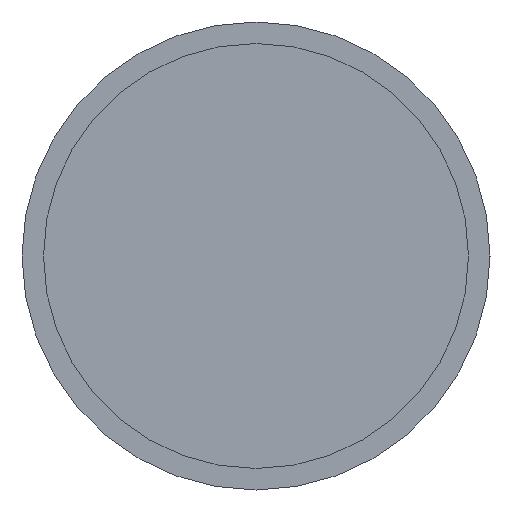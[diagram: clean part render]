
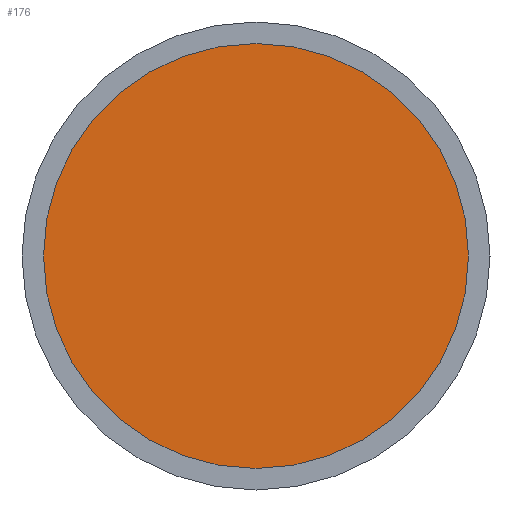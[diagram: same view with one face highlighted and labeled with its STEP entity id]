
A CAD part, left-side view. The second image highlights one B-rep face of the part: STEP entity #176.
In plain terms, the highlighted planar face has unit normal (-1, 0, 0).
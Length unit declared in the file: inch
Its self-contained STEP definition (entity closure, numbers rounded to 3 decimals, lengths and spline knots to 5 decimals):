
#61=FACE_OUTER_BOUND('',#69,.T.);
#69=EDGE_LOOP('',(#125,#126));
#78=CIRCLE('',#205,1.0785);
#79=CIRCLE('',#206,1.0785);
#92=VERTEX_POINT('',#318);
#93=VERTEX_POINT('',#319);
#106=EDGE_CURVE('',#92,#93,#78,.T.);
#107=EDGE_CURVE('',#93,#92,#79,.T.);
#125=ORIENTED_EDGE('',*,*,#106,.F.);
#126=ORIENTED_EDGE('',*,*,#107,.F.);
#163=PLANE('',#204);
#176=ADVANCED_FACE('',(#61),#163,.T.);
#204=AXIS2_PLACEMENT_3D('',#317,#241,#242);
#205=AXIS2_PLACEMENT_3D('',#320,#243,#244);
#206=AXIS2_PLACEMENT_3D('',#321,#245,#246);
#241=DIRECTION('center_axis',(-1.,0.,0.));
#242=DIRECTION('ref_axis',(0.,0.,1.));
#243=DIRECTION('center_axis',(1.,0.,0.));
#244=DIRECTION('ref_axis',(0.,1.,0.));
#245=DIRECTION('center_axis',(1.,0.,0.));
#246=DIRECTION('ref_axis',(0.,1.,0.));
#317=CARTESIAN_POINT('Origin',(2.516,0.53925,0.));
#318=CARTESIAN_POINT('',(2.516,1.0785,0.));
#319=CARTESIAN_POINT('',(2.516,-1.0785,0.));
#320=CARTESIAN_POINT('Origin',(2.516,0.,0.));
#321=CARTESIAN_POINT('Origin',(2.516,0.,0.));
